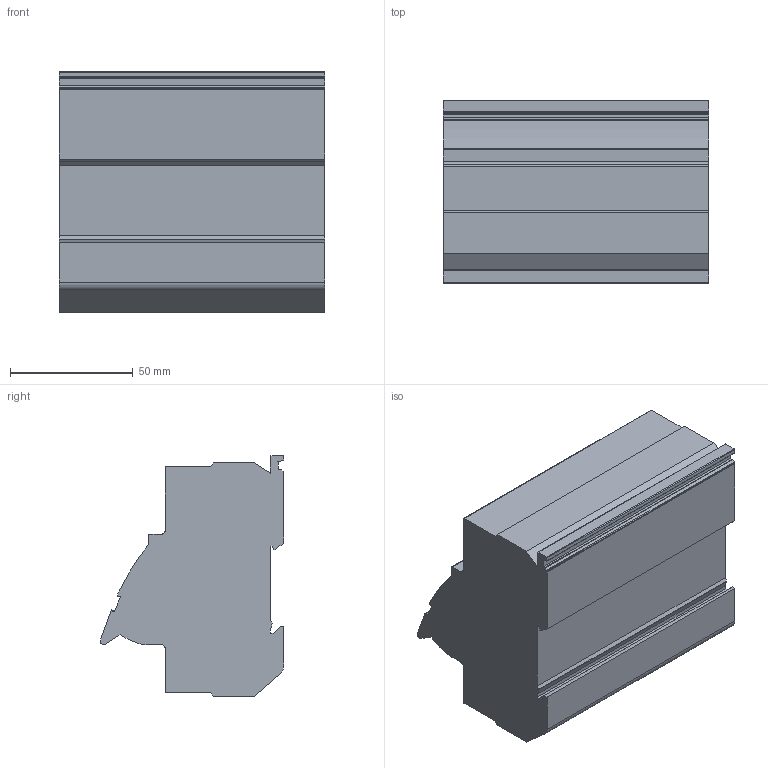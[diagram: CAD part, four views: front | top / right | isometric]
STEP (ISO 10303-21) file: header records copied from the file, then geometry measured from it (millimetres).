
FILE_DESCRIPTION (( 'STEP AP214' ), '1' );
FILE_NAME ('OptiHold CFH14-4.STEP', '2025-09-29T11:55:16', ( '' ), ( '' ), 'SwSTEP 2.0', 'SolidWorks 2018', '' );
FILE_SCHEMA (( 'AUTOMOTIVE_DESIGN' ));
Length unit declared in the file: millimetre
Products named in the file (2): OptiHold CFH14-4
Bounding box: 108 x 74.66 x 97.9 mm (x, y, z)
Volume: 541741.5 mm3; surface area: 47882.8 mm2
Topology: 1 solids, 1 shells, 75 faces, 219 edges, 146 vertices
Faces by surface type: plane 47, cylinder 27, bspline 1
Entity records: 3350 total; most frequent: CARTESIAN_POINT 1263, ORIENTED_EDGE 438, DIRECTION 423, EDGE_CURVE 219, LINE 163, VECTOR 163, VERTEX_POINT 146, AXIS2_PLACEMENT_3D 130
